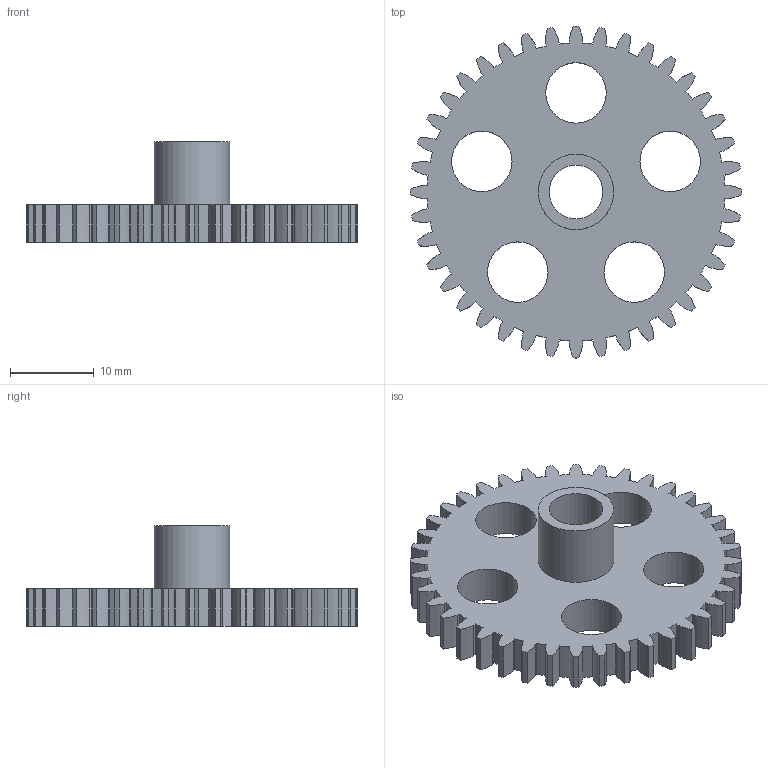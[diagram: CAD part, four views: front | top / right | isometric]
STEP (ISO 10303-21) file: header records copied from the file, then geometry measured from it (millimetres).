
FILE_DESCRIPTION(('Open CASCADE Model'),'2;1');
FILE_NAME('Open CASCADE Shape Model','2026-10-05T13:03:08',('Author'),( 'Open CASCADE'),'Open CASCADE STEP processor 7.9','Open CASCADE 7.9' ,'Unknown');
FILE_SCHEMA(('AUTOMOTIVE_DESIGN { 1 0 10303 214 1 1 1 1 }'));
Length unit declared in the file: millimetre
Products named in the file (1): Open CASCADE STEP translator 7.9 22
Bounding box: 39.55 x 39.55 x 12 mm (x, y, z)
Volume: 4093.7 mm3; surface area: 3783 mm2
Topology: 1 solids, 1 shells, 250 faces, 741 edges, 494 vertices
Faces by surface type: cylinder 87, plane 83, extrusion 80
Full cylindrical faces by diameter (mm): 6.4 x1, 7.2 x5, 9 x1
Entity records: 20186 total; most frequent: CARTESIAN_POINT 5768, DIRECTION 2499, VECTOR 1635, LINE 1555, ORIENTED_EDGE 1482, PCURVE 1482, DEFINITIONAL_REPRESENTATION 1482, EDGE_CURVE 741
